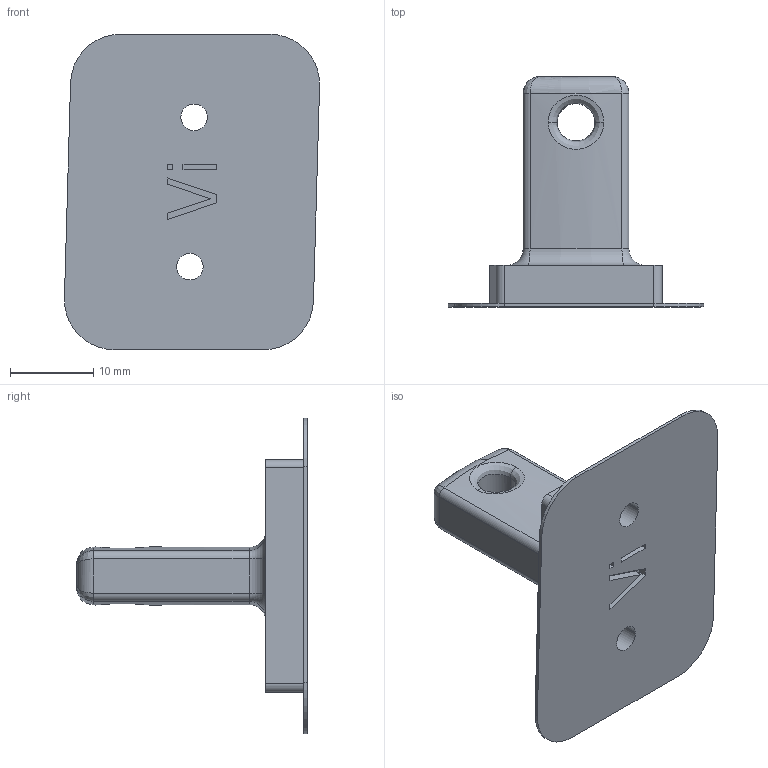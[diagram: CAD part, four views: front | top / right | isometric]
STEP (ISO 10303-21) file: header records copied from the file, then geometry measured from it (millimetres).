
FILE_DESCRIPTION((''),'2;1');
FILE_NAME('0000187325','2024-01-10T08:43:09',('Wyndorps'),(''),'CREO PARAMETRIC BY PTC INC, 2022484','CREO PARAMETRIC BY PTC INC, 2022484','');
FILE_SCHEMA(('CONFIG_CONTROL_DESIGN'));
Length unit declared in the file: millimetre
Products named in the file (1): 0000187325
Bounding box: 30.74 x 27.75 x 38 mm (x, y, z)
Volume: 4678.7 mm3; surface area: 3610.6 mm2
Topology: 1 solids, 1 shells, 76 faces, 179 edges, 110 vertices
Faces by surface type: plane 32, cylinder 24, torus 8, bspline 8, cone 4
Entity records: 3217 total; most frequent: CARTESIAN_POINT 1437, DIRECTION 359, ORIENTED_EDGE 358, EDGE_CURVE 179, AXIS2_PLACEMENT_3D 128, VERTEX_POINT 110, VECTOR 103, LINE 103
